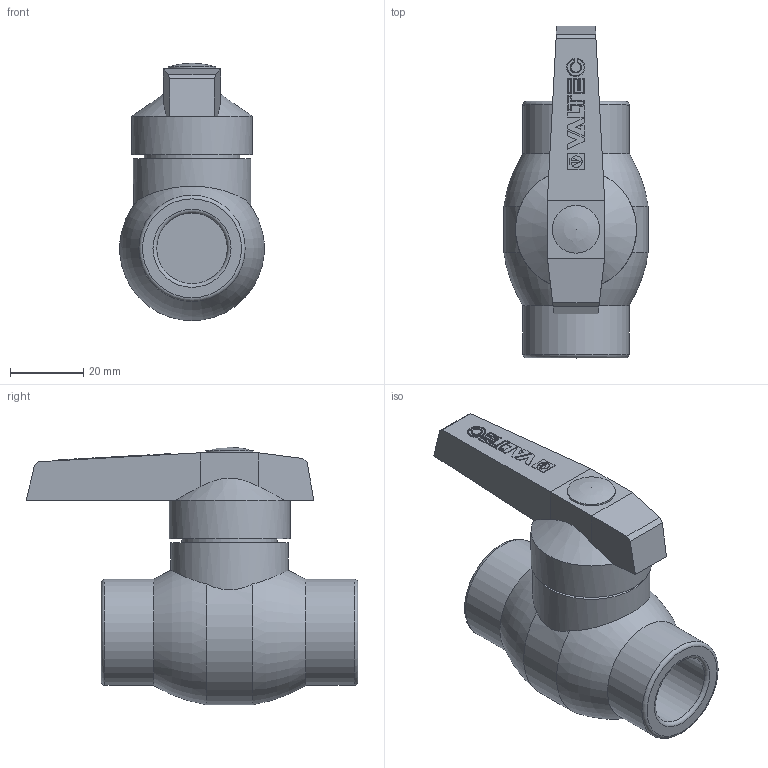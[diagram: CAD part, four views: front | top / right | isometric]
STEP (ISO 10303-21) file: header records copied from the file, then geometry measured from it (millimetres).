
FILE_DESCRIPTION(('STEP AP242'), '1');
FILE_NAME('VTp.744.0.020', '', ('UNSPECIFIED'), ('UNSPECIFIED'), 'C3D Converter', 'C3D Toolkit', '');
FILE_SCHEMA(('AP242_MANAGED_MODEL_BASED_3D_ENGINEERING_MIM_LF { 1 0 10303 442 1 1 4 }'));
Length unit declared in the file: millimetre
Bounding box: 39.39 x 90.5 x 70.25 mm (x, y, z)
Volume: 82115.9 mm3; surface area: 16590.4 mm2
Topology: 1 solids, 1 shells, 138 faces, 339 edges, 221 vertices
Faces by surface type: plane 115, cylinder 14, torus 6, cone 2, sphere 1
Full cylindrical faces by diameter (mm): 13 x1, 19.287 x2, 26 x1, 29 x2, 32 x1, 33 x1
Entity records: 4503 total; most frequent: CARTESIAN_POINT 1291, ORIENTED_EDGE 646, DIRECTION 607, EDGE_CURVE 323, LINE 275, VECTOR 275, VERTEX_POINT 220, EDGE_LOOP 171
